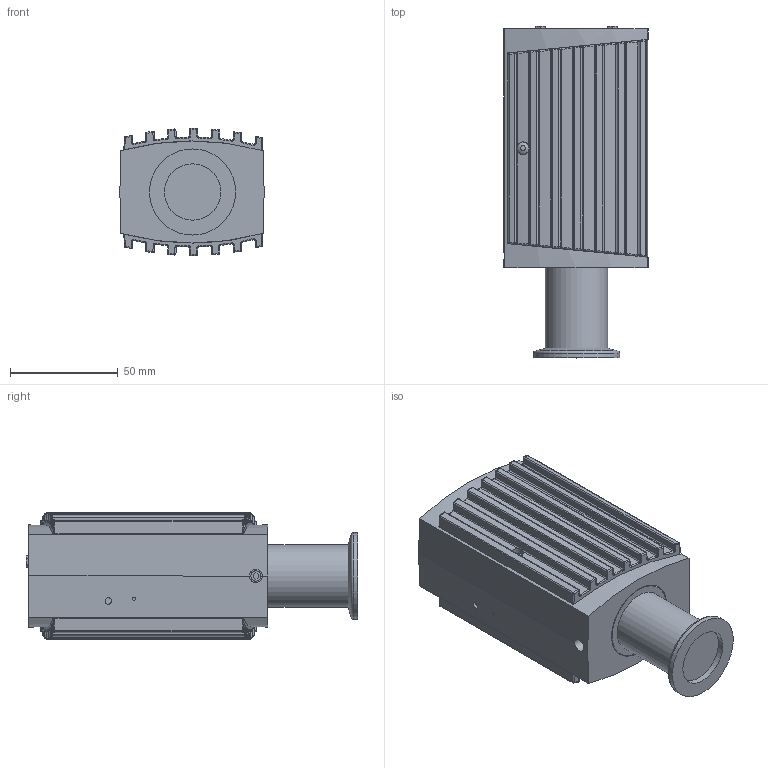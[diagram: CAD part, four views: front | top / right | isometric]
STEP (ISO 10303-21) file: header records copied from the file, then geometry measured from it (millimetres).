
FILE_DESCRIPTION((''),'2;1');
FILE_NAME('W:\ITR200\353-570.stp','2008-10-21T13:21:57',('gelh'),(''),'Autodesk Inventor 2009','Autodesk Inventor 2009','');
FILE_SCHEMA(('AUTOMOTIVE_DESIGN { 1 0 10303 214 1 1 1 1 }'));
Length unit declared in the file: millimetre
Products named in the file (1): 353-570
Bounding box: 67 x 154.1 x 59 mm (x, y, z)
Volume: 137355.4 mm3; surface area: 87170.3 mm2
Topology: 3 solids, 3 shells, 737 faces, 1899 edges, 1165 vertices
Faces by surface type: plane 326, cylinder 241, bspline 104, sphere 58, cone 5, torus 3
Full cylindrical faces by diameter (mm): 1.5 x2, 2.3 x4, 2.4 x2, 2.8 x4, 3 x7, 3.2 x7, 4 x1, 4.2 x3, 4.8 x1, 5.6 x2, 6 x3, 15 x1, 24.8 x1, 25 x1, 25.6 x1, 26 x1, 26.2 x1, 28.7 x1, 29 x1, 31.95 x2, 32 x1, 40 x1
Entity records: 26849 total; most frequent: CARTESIAN_POINT 9089, DIRECTION 3837, ORIENTED_EDGE 3578, EDGE_CURVE 1789, AXIS2_PLACEMENT_3D 1443, VERTEX_POINT 1137, VECTOR 951, LINE 951
